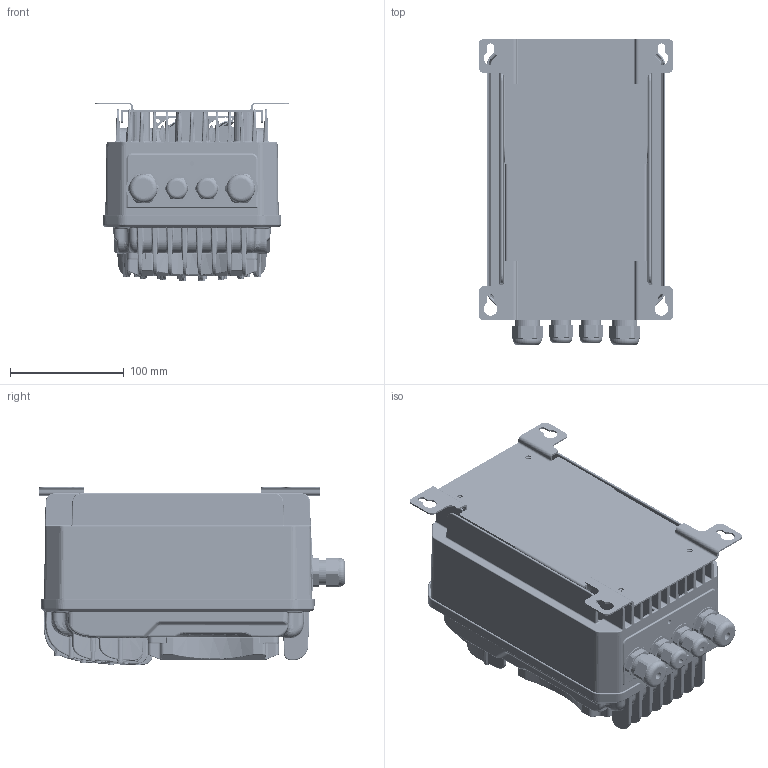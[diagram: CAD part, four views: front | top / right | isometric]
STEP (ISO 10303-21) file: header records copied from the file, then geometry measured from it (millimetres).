
FILE_DESCRIPTION((''),'2;1');
FILE_NAME('0000-J0A05_ASM_ASM','2024-05-28T',('think'),(''),'CREO PARAMETRIC BY PTC INC, 2016130','CREO PARAMETRIC BY PTC INC, 2016130','');
FILE_SCHEMA(('CONFIG_CONTROL_DESIGN'));
Products named in the file (13): KZH-222_5; J0A00-0303-G13_5; 0300_ASM_5_ASM; FAN_4020_5; SKINTOP_ST_M_20X1_5_5; M16--53111410_4_5_KUNSTSTOFF_5; FAN_4010_5; QJ1_ASM_5_ASM; J0A01-0603_5; J0A02-0604_6; 0600_ASM_5_ASM; 0000-J0A05_ASM_5_ASM; 0000-J0A05_ASM_ASM
Assembly tree (15 placements, depth 4):
  0000-J0A05_ASM_ASM
    0000-J0A05_ASM_5_ASM
      KZH-222_5
      0300_ASM_5_ASM
        J0A00-0303-G13_5
      QJ1_ASM_5_ASM
        FAN_4020_5  x2
        SKINTOP_ST_M_20X1_5_5  x2
        M16--53111410_4_5_KUNSTSTOFF_5  x2
        FAN_4010_5
      0600_ASM_5_ASM
        J0A01-0603_5
        J0A02-0604_6
Bounding box: 171 x 268.74 x 156.7 mm (x, y, z)
Volume: 1069180.6 mm3; surface area: 664425.6 mm2
Topology: 11 solids, 12 shells, 6590 faces, 16481 edges, 9910 vertices
Faces by surface type: cylinder 2188, plane 1675, bspline 1399, torus 781, cone 324, sphere 121, extrusion 102
Entity records: 269709 total; most frequent: CARTESIAN_POINT 128810, ORIENTED_EDGE 31312, DIRECTION 27128, EDGE_CURVE 15656, AXIS2_PLACEMENT_3D 10432, VERTEX_POINT 9448, EDGE_LOOP 6576, FACE_OUTER_BOUND 6336
